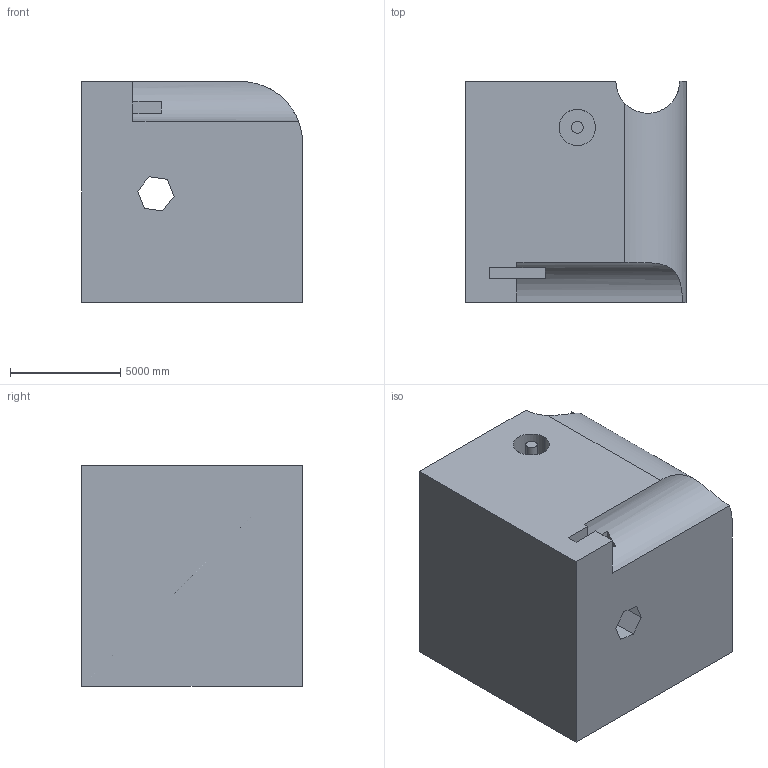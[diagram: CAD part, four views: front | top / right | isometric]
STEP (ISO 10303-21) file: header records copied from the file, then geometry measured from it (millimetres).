
FILE_DESCRIPTION (( 'STEP AP203' ), '1' );
FILE_NAME ('154.STEP', '2022-09-06T13:26:21', ( 'user' ), ( '' ), 'SwSTEP 2.0', 'SolidWorks 2021', '' );
FILE_SCHEMA (( 'CONFIG_CONTROL_DESIGN' ));
Length unit declared in the file: centimetre
Products named in the file (1): 154
Bounding box: 10000 x 10000 x 10000 mm (x, y, z)
Volume: 905398238789.7 mm3; surface area: 681917318.6 mm2
Topology: 1 solids, 1 shells, 32 faces, 90 edges, 60 vertices
Faces by surface type: plane 25, cylinder 7
Entity records: 1330 total; most frequent: CARTESIAN_POINT 403, ORIENTED_EDGE 180, DIRECTION 169, EDGE_CURVE 90, VECTOR 73, LINE 73, VERTEX_POINT 60, AXIS2_PLACEMENT_3D 48
